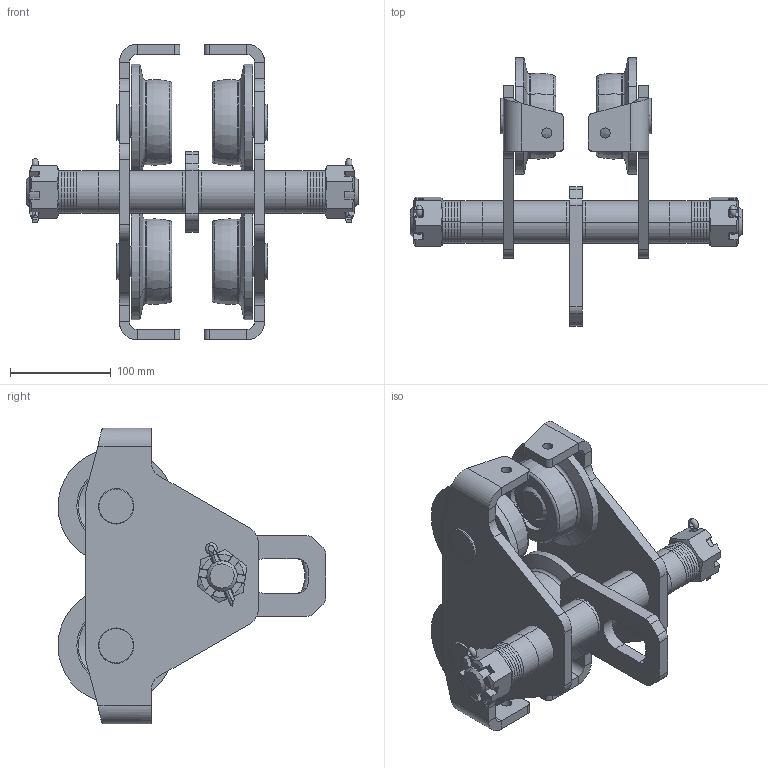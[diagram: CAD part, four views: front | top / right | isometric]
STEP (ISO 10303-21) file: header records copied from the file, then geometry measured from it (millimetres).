
FILE_DESCRIPTION (( 'STEP AP214' ), '1' );
FILE_NAME ('OZ2PBT-TM.STEP', '2023-03-13T15:55:19', ( '' ), ( '' ), 'SwSTEP 2.0', 'SolidWorks 2021', '' );
FILE_SCHEMA (( 'AUTOMOTIVE_DESIGN' ));
Length unit declared in the file: millimetre
Products named in the file (1): OZ2PBT-TM
Bounding box: 329 x 265.5 x 293 mm (x, y, z)
Volume: 2089057.7 mm3; surface area: 504200.8 mm2
Topology: 40 solids, 40 shells, 712 faces, 1610 edges, 1006 vertices
Faces by surface type: cylinder 296, plane 234, cone 96, torus 78, bspline 8
Entity records: 29615 total; most frequent: CARTESIAN_POINT 4975, DIRECTION 3638, ORIENTED_EDGE 3220, EDGE_CURVE 1610, AXIS2_PLACEMENT_3D 1505, VERTEX_POINT 1006, EDGE_LOOP 828, CIRCLE 800
